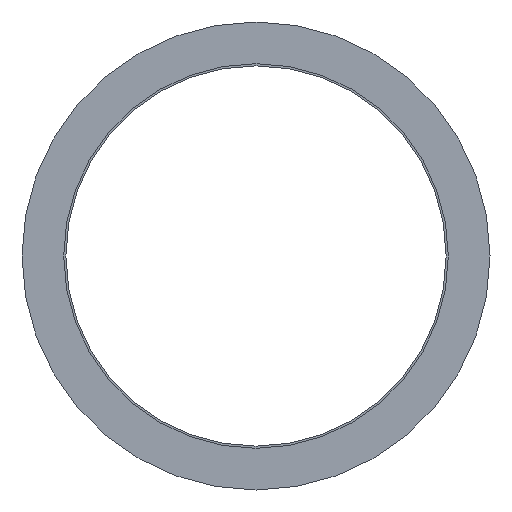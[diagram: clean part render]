
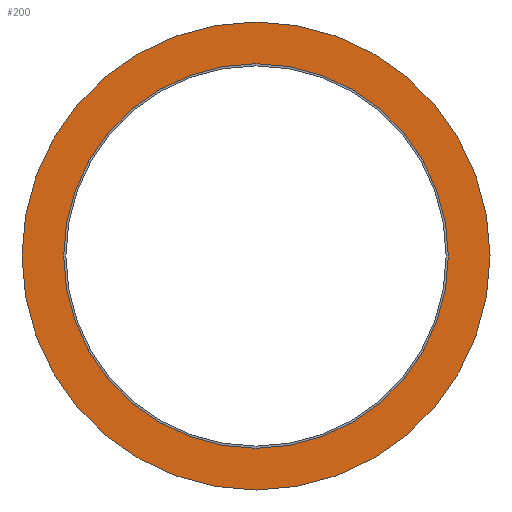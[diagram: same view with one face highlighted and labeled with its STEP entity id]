
A CAD part, left-side view. The second image highlights one B-rep face of the part: STEP entity #200.
In plain terms, the highlighted planar face has unit normal (-1, 0, 0).
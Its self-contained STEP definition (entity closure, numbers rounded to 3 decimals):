
#1 = ORIENTED_EDGE ( 'NONE', *, *, #40, .F. ) ;
#3 = AXIS2_PLACEMENT_3D ( 'NONE', #257, #321, #292 ) ;
#8 = ORIENTED_EDGE ( 'NONE', *, *, #363, .T. ) ;
#40 = EDGE_CURVE ( 'NONE', #154, #221, #332, .T. ) ;
#61 = EDGE_LOOP ( 'NONE', ( #398, #1 ) ) ;
#75 = DIRECTION ( 'NONE',  ( -1., 0., 0. ) ) ;
#81 = DIRECTION ( 'NONE',  ( 1., 0., 0. ) ) ;
#86 = PLANE ( 'NONE',  #236 ) ;
#94 = CARTESIAN_POINT ( 'NONE',  ( -2.579, 0., 0. ) ) ;
#129 = VERTEX_POINT ( 'NONE', #183 ) ;
#149 = AXIS2_PLACEMENT_3D ( 'NONE', #191, #81, #391 ) ;
#154 = VERTEX_POINT ( 'NONE', #214 ) ;
#160 = EDGE_LOOP ( 'NONE', ( #8, #316 ) ) ;
#170 = AXIS2_PLACEMENT_3D ( 'NONE', #285, #247, #312 ) ;
#183 = CARTESIAN_POINT ( 'NONE',  ( -2.579, 0., 6.575 ) ) ;
#184 = CARTESIAN_POINT ( 'NONE',  ( -2.579, 0., -8. ) ) ;
#190 = DIRECTION ( 'NONE',  ( 0., 0., -1. ) ) ;
#191 = CARTESIAN_POINT ( 'NONE',  ( -2.579, 0., 0. ) ) ;
#200 = ADVANCED_FACE ( 'NONE', ( #360, #323 ), #86, .T. ) ;
#214 = CARTESIAN_POINT ( 'NONE',  ( -2.579, 0., 8. ) ) ;
#218 = DIRECTION ( 'NONE',  ( 0., 0., 1. ) ) ;
#221 = VERTEX_POINT ( 'NONE', #184 ) ;
#236 = AXIS2_PLACEMENT_3D ( 'NONE', #281, #75, #218 ) ;
#247 = DIRECTION ( 'NONE',  ( 1., 0., 0. ) ) ;
#257 = CARTESIAN_POINT ( 'NONE',  ( -2.579, 0., 0. ) ) ;
#259 = VERTEX_POINT ( 'NONE', #276 ) ;
#263 = CIRCLE ( 'NONE', #320, 6.575 ) ;
#276 = CARTESIAN_POINT ( 'NONE',  ( -2.579, 0., -6.575 ) ) ;
#281 = CARTESIAN_POINT ( 'NONE',  ( -2.579, 0., 0. ) ) ;
#285 = CARTESIAN_POINT ( 'NONE',  ( -2.579, 0., 0. ) ) ;
#292 = DIRECTION ( 'NONE',  ( 0., 0., -1. ) ) ;
#312 = DIRECTION ( 'NONE',  ( 0., 0., -1. ) ) ;
#315 = EDGE_CURVE ( 'NONE', #129, #259, #350, .T. ) ;
#316 = ORIENTED_EDGE ( 'NONE', *, *, #315, .T. ) ;
#320 = AXIS2_PLACEMENT_3D ( 'NONE', #94, #324, #190 ) ;
#321 = DIRECTION ( 'NONE',  ( 1., 0., 0. ) ) ;
#323 = FACE_OUTER_BOUND ( 'NONE', #61, .T. ) ;
#324 = DIRECTION ( 'NONE',  ( 1., 0., 0. ) ) ;
#327 = EDGE_CURVE ( 'NONE', #221, #154, #369, .T. ) ;
#332 = CIRCLE ( 'NONE', #149, 8. ) ;
#350 = CIRCLE ( 'NONE', #170, 6.575 ) ;
#360 = FACE_BOUND ( 'NONE', #160, .T. ) ;
#363 = EDGE_CURVE ( 'NONE', #259, #129, #263, .T. ) ;
#369 = CIRCLE ( 'NONE', #3, 8. ) ;
#391 = DIRECTION ( 'NONE',  ( 0., 0., -1. ) ) ;
#398 = ORIENTED_EDGE ( 'NONE', *, *, #327, .F. ) ;
